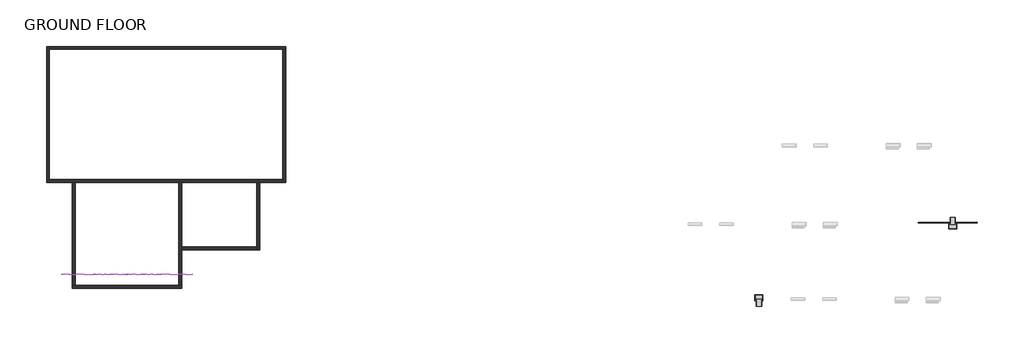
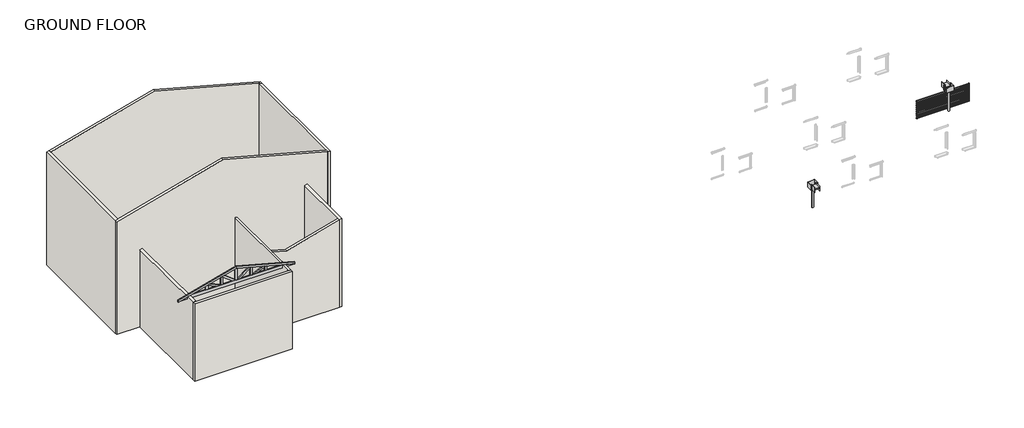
# One storey, part 1 of 2: 9 walls, 2 beams, 2 furniture elements.
"""IFC4 building model written with IfcOpenShell, lengths in millimetres."""

from ifc_helpers import new_model, si_unit, point, frame, frame_2d, origin, place, context, project, spatial, polyline, circle_curve, trimmed, segment, composite_curve, outline, extrude, faceted_brep, transform, mapped, element, save
from components import casework_2_casework_1_acfe7227, casework_3_casework_1_fadb44d8

model = new_model("IFC4")

# Units and contexts
model_context = context("Model", 3, world=origin())
ifc_project = project(units=[si_unit("LENGTHUNIT", "METRE", prefix="MILLI")], contexts=[model_context])

# Site, building, storey
site = spatial("IfcSite", under=ifc_project)
building = spatial("IfcBuilding", under=site)
storey = spatial("IfcBuildingStorey", under=building, Name="GROUND FLOOR", Elevation=0.0)

# Beams
placement = place(None, origin())
element("IfcBeam", 1, ObjectType="3D_Metalcraft T-Rib2 : 3D_Metalcraft T-Rib 2", at=placement, inside=storey, context=model_context, shape_type="SweptSolid", body=[
    extrude(outline(composite_curve([segment(polyline([(-23652.6775988, -1154.5488277), (-23650.9549813, -1150.4326775), (-23650.9549813, -1113.1404552), (-23652.6775988, -1109.024305), (-23652.6775988, -1066.7865663)]), True, "CONTINUOUS"), segment(trimmed(circle_curve(frame_2d((-23648.3388872, -1067.5668875)), 4.4083239), [point((-23652.6775988, -1066.7865663))], [point((-23650.8813088, -1063.9655805))], False, "CARTESIAN"), True, "CONTINUOUS"), segment(polyline([(-23650.8813088, -1063.9655805), (-23627.481988, -1048.4592407)]), True, "CONTINUOUS"), segment(trimmed(circle_curve(frame_2d((-23629.2734756, -1045.8936408)), 3.1291741), [point((-23627.481988, -1048.4592407))], [point((-23626.3050774, -1046.8837632))], True, "CARTESIAN"), True, "CONTINUOUS"), segment(trimmed(circle_curve(frame_2d((-23656.7771385, -1036.7924812)), 32.0995402), [point((-23626.3050774, -1046.8837632))], [point((-23624.6775989, -1036.7865663))], True, "CARTESIAN"), True, "CONTINUOUS"), segment(trimmed(circle_curve(frame_2d((-23656.7771385, -1036.7806515)), 32.0995402), [point((-23624.6775989, -1036.7865663))], [point((-23626.3050774, -1026.6893694))], True, "CARTESIAN"), True, "CONTINUOUS"), segment(trimmed(circle_curve(frame_2d((-23629.2734756, -1027.6794919)), 3.1291741), [point((-23626.3050774, -1026.6893694))], [point((-23627.481988, -1025.113892))], True, "CARTESIAN"), True, "CONTINUOUS"), segment(polyline([(-23627.481988, -1025.113892), (-23650.8813088, -1009.6075522)]), True, "CONTINUOUS"), segment(trimmed(circle_curve(frame_2d((-23648.3388872, -1006.0062451)), 4.4083239), [point((-23650.8813088, -1009.6075522))], [point((-23652.6775988, -1006.7865663))], False, "CARTESIAN"), True, "CONTINUOUS"), segment(polyline([(-23652.6775988, -1006.7865663), (-23652.6775988, -964.5488277), (-23650.9549813, -960.4326775), (-23650.9549813, -923.1404552), (-23652.6775988, -919.024305), (-23652.6775988, -876.7865663)]), True, "CONTINUOUS"), segment(trimmed(circle_curve(frame_2d((-23648.3388872, -877.5668875)), 4.4083239), [point((-23652.6775988, -876.7865663))], [point((-23650.8813088, -873.9655805))], False, "CARTESIAN"), True, "CONTINUOUS"), segment(polyline([(-23650.8813088, -873.9655805), (-23627.481988, -858.4592407)]), True, "CONTINUOUS"), segment(trimmed(circle_curve(frame_2d((-23629.2734756, -855.8936408)), 3.1291741), [point((-23627.481988, -858.4592407))], [point((-23626.3050774, -856.8837632))], True, "CARTESIAN"), True, "CONTINUOUS"), segment(trimmed(circle_curve(frame_2d((-23656.7771385, -846.7924812)), 32.0995402), [point((-23626.3050774, -856.8837632))], [point((-23624.6775989, -846.7865663))], True, "CARTESIAN"), True, "CONTINUOUS"), segment(trimmed(circle_curve(frame_2d((-23656.7771385, -846.7806514)), 32.0995402), [point((-23624.6775989, -846.7865663))], [point((-23626.3050774, -836.6893694))], True, "CARTESIAN"), True, "CONTINUOUS"), segment(trimmed(circle_curve(frame_2d((-23629.2734756, -837.6794919)), 3.1291741), [point((-23626.3050774, -836.6893694))], [point((-23627.481988, -835.113892))], True, "CARTESIAN"), True, "CONTINUOUS"), segment(polyline([(-23627.481988, -835.113892), (-23650.8813088, -819.6075522)]), True, "CONTINUOUS"), segment(trimmed(circle_curve(frame_2d((-23648.3388872, -816.0062451)), 4.4083239), [point((-23650.8813088, -819.6075522))], [point((-23652.6775988, -816.7865663))], False, "CARTESIAN"), True, "CONTINUOUS"), segment(polyline([(-23652.6775988, -816.7865663), (-23652.6775988, -774.5488277), (-23650.9549813, -770.4326774), (-23650.9549813, -733.1404552), (-23652.6775988, -729.024305), (-23652.6775988, -686.7865663)]), True, "CONTINUOUS"), segment(trimmed(circle_curve(frame_2d((-23648.3388872, -687.5668875)), 4.4083239), [point((-23652.6775988, -686.7865663))], [point((-23650.8813088, -683.9655805))], False, "CARTESIAN"), True, "CONTINUOUS"), segment(polyline([(-23650.8813088, -683.9655805), (-23627.481988, -668.4592407)]), True, "CONTINUOUS"), segment(trimmed(circle_curve(frame_2d((-23629.2734756, -665.8936408)), 3.1291741), [point((-23627.481988, -668.4592407))], [point((-23626.3050774, -666.8837632))], True, "CARTESIAN"), True, "CONTINUOUS"), segment(trimmed(circle_curve(frame_2d((-23656.7771385, -656.7924812)), 32.0995402), [point((-23626.3050774, -666.8837632))], [point((-23624.6775989, -656.7865663))], True, "CARTESIAN"), True, "CONTINUOUS"), segment(trimmed(circle_curve(frame_2d((-23656.7771385, -656.7806514)), 32.0995402), [point((-23624.6775989, -656.7865663))], [point((-23626.3050774, -646.6893694))], True, "CARTESIAN"), True, "CONTINUOUS"), segment(trimmed(circle_curve(frame_2d((-23629.2734756, -647.6794919)), 3.1291741), [point((-23626.3050774, -646.6893694))], [point((-23627.481988, -645.113892))], True, "CARTESIAN"), True, "CONTINUOUS"), segment(polyline([(-23627.481988, -645.113892), (-23650.8813088, -629.6075522)]), True, "CONTINUOUS"), segment(trimmed(circle_curve(frame_2d((-23648.3388872, -626.0062451)), 4.4083239), [point((-23650.8813088, -629.6075522))], [point((-23652.6775988, -626.7865663))], False, "CARTESIAN"), True, "CONTINUOUS"), segment(polyline([(-23652.6775988, -626.7865663), (-23652.6775988, -584.5488277), (-23650.9549813, -580.4326774), (-23650.9549813, -543.1404552), (-23652.6775988, -539.024305), (-23652.6775988, -496.7865663)]), True, "CONTINUOUS"), segment(trimmed(circle_curve(frame_2d((-23648.3388872, -497.5668875)), 4.4083239), [point((-23652.6775988, -496.7865663))], [point((-23650.8813088, -493.9655805))], False, "CARTESIAN"), True, "CONTINUOUS"), segment(polyline([(-23650.8813088, -493.9655805), (-23627.481988, -478.4592407)]), True, "CONTINUOUS"), segment(trimmed(circle_curve(frame_2d((-23629.2734756, -475.8936408)), 3.1291741), [point((-23627.481988, -478.4592407))], [point((-23626.3050774, -476.8837632))], True, "CARTESIAN"), True, "CONTINUOUS"), segment(trimmed(circle_curve(frame_2d((-23656.7771385, -466.7924812)), 32.0995402), [point((-23626.3050774, -476.8837632))], [point((-23624.6775989, -466.7865663))], True, "CARTESIAN"), True, "CONTINUOUS"), segment(trimmed(circle_curve(frame_2d((-23656.7771385, -466.7806514)), 32.0995402), [point((-23624.6775989, -466.7865663))], [point((-23626.3050774, -456.6893694))], True, "CARTESIAN"), True, "CONTINUOUS"), segment(trimmed(circle_curve(frame_2d((-23629.2734756, -457.6794919)), 3.1291741), [point((-23626.3050774, -456.6893694))], [point((-23627.481988, -455.113892))], True, "CARTESIAN"), True, "CONTINUOUS"), segment(polyline([(-23627.481988, -455.113892), (-23648.8813093, -440.9329184)]), True, "CONTINUOUS"), segment(trimmed(circle_curve(frame_2d((-23646.3388872, -437.3316118)), 4.4083239), [point((-23648.8813093, -440.9329184))], [point((-23650.6775988, -438.111933))], False, "CARTESIAN"), True, "CONTINUOUS"), segment(polyline([(-23650.6775988, -438.111933), (-23650.6775988, -434.4632978)]), True, "CONTINUOUS"), segment(trimmed(circle_curve(frame_2d((-23650.1775988, -434.4632978)), 0.5), [point((-23650.6775988, -434.4632978))], [point((-23649.6775988, -434.4632978))], False, "CARTESIAN"), True, "CONTINUOUS"), segment(polyline([(-23649.6775988, -434.4632978), (-23649.6775988, -438.0169414)]), True, "CONTINUOUS"), segment(trimmed(circle_curve(frame_2d((-23646.3388872, -437.3316118)), 3.4083239), [point((-23649.6775988, -438.0169414))], [point((-23648.3158314, -440.1080058))], True, "CARTESIAN"), True, "CONTINUOUS"), segment(polyline([(-23648.3158314, -440.1080058), (-23626.9201514, -454.2865663)]), True, "CONTINUOUS"), segment(trimmed(circle_curve(frame_2d((-23629.2734756, -457.6794919)), 4.1291741), [point((-23626.9201514, -454.2865663))], [point((-23625.3560958, -456.3740363))], False, "CARTESIAN"), True, "CONTINUOUS"), segment(trimmed(circle_curve(frame_2d((-23656.7771385, -466.7806514)), 33.0995402), [point((-23625.3560958, -456.3740363))], [point((-23623.6775988, -466.7865663))], False, "CARTESIAN"), True, "CONTINUOUS"), segment(trimmed(circle_curve(frame_2d((-23656.7771385, -466.7924812)), 33.0995402), [point((-23623.6775988, -466.7865663))], [point((-23625.3560958, -477.1990963))], False, "CARTESIAN"), True, "CONTINUOUS"), segment(trimmed(circle_curve(frame_2d((-23629.2734756, -475.8936408)), 4.1291741), [point((-23625.3560958, -477.1990963))], [point((-23626.9201514, -479.2865663))], False, "CARTESIAN"), True, "CONTINUOUS"), segment(polyline([(-23626.9201514, -479.2865663), (-23650.1253386, -494.6642571)]), True, "CONTINUOUS"), segment(trimmed(circle_curve(frame_2d((-23648.3388872, -497.5668875)), 3.4083239), [point((-23650.1253386, -494.6642571))], [point((-23651.6775988, -496.881558))], True, "CARTESIAN"), True, "CONTINUOUS"), segment(polyline([(-23651.6775988, -496.881558), (-23651.6775988, -538.8234921), (-23649.9549813, -542.9396424), (-23649.9549813, -580.6334903), (-23651.6775988, -584.7496405), (-23651.6775988, -626.6915747)]), True, "CONTINUOUS"), segment(trimmed(circle_curve(frame_2d((-23648.3388872, -626.0062451)), 3.4083239), [point((-23651.6775988, -626.6915747))], [point((-23650.1253386, -628.9088755))], True, "CARTESIAN"), True, "CONTINUOUS"), segment(polyline([(-23650.1253386, -628.9088755), (-23626.9201514, -644.2865663)]), True, "CONTINUOUS"), segment(trimmed(circle_curve(frame_2d((-23629.2734756, -647.6794919)), 4.1291741), [point((-23626.9201514, -644.2865663))], [point((-23625.3560958, -646.3740363))], False, "CARTESIAN"), True, "CONTINUOUS"), segment(trimmed(circle_curve(frame_2d((-23656.7771385, -656.7806514)), 33.0995402), [point((-23625.3560958, -646.3740363))], [point((-23623.6775988, -656.7865663))], False, "CARTESIAN"), True, "CONTINUOUS"), segment(trimmed(circle_curve(frame_2d((-23656.7771385, -656.7924812)), 33.0995402), [point((-23623.6775988, -656.7865663))], [point((-23625.3560958, -667.1990963))], False, "CARTESIAN"), True, "CONTINUOUS"), segment(trimmed(circle_curve(frame_2d((-23629.2734756, -665.8936408)), 4.1291741), [point((-23625.3560958, -667.1990963))], [point((-23626.9201514, -669.2865663))], False, "CARTESIAN"), True, "CONTINUOUS"), segment(polyline([(-23626.9201514, -669.2865663), (-23650.1253386, -684.6642571)]), True, "CONTINUOUS"), segment(trimmed(circle_curve(frame_2d((-23648.3388872, -687.5668875)), 3.4083239), [point((-23650.1253386, -684.6642571))], [point((-23651.6775988, -686.881558))], True, "CARTESIAN"), True, "CONTINUOUS"), segment(polyline([(-23651.6775988, -686.881558), (-23651.6775988, -728.8234921), (-23649.9549813, -732.9396424), (-23649.9549813, -770.6334903), (-23651.6775988, -774.7496405), (-23651.6775988, -816.6915747)]), True, "CONTINUOUS"), segment(trimmed(circle_curve(frame_2d((-23648.3388872, -816.0062451)), 3.4083239), [point((-23651.6775988, -816.6915747))], [point((-23650.1253386, -818.9088755))], True, "CARTESIAN"), True, "CONTINUOUS"), segment(polyline([(-23650.1253386, -818.9088755), (-23626.9201514, -834.2865663)]), True, "CONTINUOUS"), segment(trimmed(circle_curve(frame_2d((-23629.2734756, -837.6794919)), 4.1291741), [point((-23626.9201514, -834.2865663))], [point((-23625.3560958, -836.3740363))], False, "CARTESIAN"), True, "CONTINUOUS"), segment(trimmed(circle_curve(frame_2d((-23656.7771385, -846.7806514)), 33.0995402), [point((-23625.3560958, -836.3740363))], [point((-23623.6775988, -846.7865663))], False, "CARTESIAN"), True, "CONTINUOUS"), segment(trimmed(circle_curve(frame_2d((-23656.7771385, -846.7924812)), 33.0995402), [point((-23623.6775988, -846.7865663))], [point((-23625.3560958, -857.1990963))], False, "CARTESIAN"), True, "CONTINUOUS"), segment(trimmed(circle_curve(frame_2d((-23629.2734756, -855.8936408)), 4.1291741), [point((-23625.3560958, -857.1990963))], [point((-23626.9201514, -859.2865663))], False, "CARTESIAN"), True, "CONTINUOUS"), segment(polyline([(-23626.9201514, -859.2865663), (-23650.1253386, -874.6642571)]), True, "CONTINUOUS"), segment(trimmed(circle_curve(frame_2d((-23648.3388872, -877.5668875)), 3.4083239), [point((-23650.1253386, -874.6642571))], [point((-23651.6775988, -876.881558))], True, "CARTESIAN"), True, "CONTINUOUS"), segment(polyline([(-23651.6775988, -876.881558), (-23651.6775988, -918.8234921), (-23649.9549813, -922.9396424), (-23649.9549813, -960.6334903), (-23651.6775988, -964.7496405), (-23651.6775988, -1006.6915747)]), True, "CONTINUOUS"), segment(trimmed(circle_curve(frame_2d((-23648.3388872, -1006.0062451)), 3.4083239), [point((-23651.6775988, -1006.6915747))], [point((-23650.1253386, -1008.9088756))], True, "CARTESIAN"), True, "CONTINUOUS"), segment(polyline([(-23650.1253386, -1008.9088756), (-23626.9201514, -1024.2865663)]), True, "CONTINUOUS"), segment(trimmed(circle_curve(frame_2d((-23629.2734756, -1027.6794919)), 4.1291741), [point((-23626.9201514, -1024.2865663))], [point((-23625.3560958, -1026.3740363))], False, "CARTESIAN"), True, "CONTINUOUS"), segment(trimmed(circle_curve(frame_2d((-23656.7771385, -1036.7806515)), 33.0995402), [point((-23625.3560958, -1026.3740363))], [point((-23623.6775988, -1036.7865663))], False, "CARTESIAN"), True, "CONTINUOUS"), segment(trimmed(circle_curve(frame_2d((-23656.7771385, -1036.7924812)), 33.0995402), [point((-23623.6775988, -1036.7865663))], [point((-23625.3560958, -1047.1990963))], False, "CARTESIAN"), True, "CONTINUOUS"), segment(trimmed(circle_curve(frame_2d((-23629.2734756, -1045.8936408)), 4.1291741), [point((-23625.3560958, -1047.1990963))], [point((-23626.9201514, -1049.2865663))], False, "CARTESIAN"), True, "CONTINUOUS"), segment(polyline([(-23626.9201514, -1049.2865663), (-23650.1253386, -1064.6642571)]), True, "CONTINUOUS"), segment(trimmed(circle_curve(frame_2d((-23648.3388872, -1067.5668875)), 3.4083239), [point((-23650.1253386, -1064.6642571))], [point((-23651.6775988, -1066.881558))], True, "CARTESIAN"), True, "CONTINUOUS"), segment(polyline([(-23651.6775988, -1066.881558), (-23651.6775988, -1108.8234921), (-23649.9549813, -1112.9396424), (-23649.9549813, -1150.6334903), (-23651.6775988, -1154.7496405), (-23651.6775988, -1199.0908656)]), True, "CONTINUOUS"), segment(trimmed(circle_curve(frame_2d((-23648.3388872, -1198.405536)), 3.4083239), [point((-23651.6775988, -1199.0908656))], [point((-23650.3158309, -1201.1819304))], True, "CARTESIAN"), True, "CONTINUOUS"), segment(polyline([(-23650.3158309, -1201.1819304), (-23628.0343874, -1215.9474716)]), True, "CONTINUOUS"), segment(trimmed(circle_curve(frame_2d((-23629.0935366, -1217.5457452)), 1.9173616), [point((-23628.0343874, -1215.9474716))], [point((-23627.2543764, -1217.0037441))], False, "CARTESIAN"), True, "CONTINUOUS"), segment(trimmed(circle_curve(frame_2d((-23656.7771385, -1226.7806515)), 31.0995402), [point((-23627.2543764, -1217.0037441))], [point((-23625.6775989, -1226.7865663))], False, "CARTESIAN"), True, "CONTINUOUS"), segment(trimmed(circle_curve(frame_2d((-23656.7771385, -1226.7924812)), 31.0995402), [point((-23625.6775989, -1226.7865663))], [point((-23627.2543764, -1236.5693886))], False, "CARTESIAN"), True, "CONTINUOUS"), segment(trimmed(circle_curve(frame_2d((-23629.0935366, -1236.0273875)), 1.9173616), [point((-23627.2543764, -1236.5693886))], [point((-23628.0343874, -1237.625661))], False, "CARTESIAN"), True, "CONTINUOUS"), segment(polyline([(-23628.0343874, -1237.625661), (-23649.6819956, -1251.9711702)]), True, "CONTINUOUS"), segment(trimmed(circle_curve(frame_2d((-23649.9581953, -1251.5543804)), 0.5), [point((-23649.6819956, -1251.9711702))], [point((-23650.234395, -1251.1375906))], False, "CARTESIAN"), True, "CONTINUOUS"), segment(polyline([(-23650.234395, -1251.1375906), (-23628.8402143, -1236.9600237)]), True, "CONTINUOUS"), segment(trimmed(circle_curve(frame_2d((-23629.8422213, -1235.4479788)), 1.8139178), [point((-23628.8402143, -1236.9600237))], [point((-23628.0752713, -1235.8580833))], True, "CARTESIAN"), True, "CONTINUOUS"), segment(trimmed(circle_curve(frame_2d((-23656.7771385, -1226.7924812)), 30.0995402), [point((-23628.0752713, -1235.8580833))], [point((-23626.6775989, -1226.7865663))], True, "CARTESIAN"), True, "CONTINUOUS"), segment(trimmed(circle_curve(frame_2d((-23656.7771385, -1226.7806515)), 30.0995402), [point((-23626.6775989, -1226.7865663))], [point((-23628.0752713, -1217.7150494))], True, "CARTESIAN"), True, "CONTINUOUS"), segment(trimmed(circle_curve(frame_2d((-23629.8422213, -1218.1251539)), 1.8139178), [point((-23628.0752713, -1217.7150494))], [point((-23628.8402143, -1216.613109))], True, "CARTESIAN"), True, "CONTINUOUS"), segment(polyline([(-23628.8402143, -1216.613109), (-23650.8813088, -1202.0068431)]), True, "CONTINUOUS"), segment(trimmed(circle_curve(frame_2d((-23648.3388872, -1198.405536)), 4.4083239), [point((-23650.8813088, -1202.0068431))], [point((-23652.6775988, -1199.1858572))], False, "CARTESIAN"), True, "CONTINUOUS"), segment(polyline([(-23652.6775988, -1199.1858572), (-23652.6775988, -1154.5488277)]), True, "CONTINUOUS")], self_intersect=False)), frame((16710.9840644, 0.0, 0.0), z_axis=(1.0, 0.0, 0.0), x_axis=(0.0, 1.0, 0.0)), (0.0, 0.0, 1.0), 2280.0),
])
element("IfcBeam", 2, ObjectType="King_post_truss_-_6_panel_-_beam_element_6323 : 8000 25d 900oh", at=placement, inside=storey, context=model_context, shape_type="SweptSolid", body=[
    extrude(outline(polyline([(3883.7034656, -13773.1375384), (3211.2581723, -16282.7375384), (3118.0833161, -16282.7375384), (3790.5286094, -13773.1375384), (3883.7034656, -13773.1375384)])), frame((0.0, -25641.1704124, 0.0), z_axis=(0.0, 1.0, 0.0), x_axis=(0.0, 0.0, 1.0)), (0.0, 0.0, 1.0), 38.1),
    extrude(outline(polyline([(3883.7034656, -13773.1375384), (3790.5286094, -13773.1375384), (3118.0833161, -11263.5375384), (3211.2581723, -11263.5375384), (3883.7034656, -13773.1375384)])), frame((0.0, -25641.1704124, 0.0), z_axis=(0.0, 1.0, 0.0), x_axis=(0.0, 0.0, 1.0)), (0.0, 0.0, 1.0), 38.1),
    extrude(outline(polyline([(3120.6, -16273.3451461), (3120.6, -11272.9299307), (3260.3, -11794.2974286), (3260.3, -15751.9776482), (3120.6, -16273.3451461)])), frame((0.0, -25641.1704124, 0.0), z_axis=(0.0, 1.0, 0.0), x_axis=(0.0, 0.0, 1.0)), (0.0, 0.0, 1.0), 38.1),
    extrude(outline(polyline([(3450.123823, -15043.5454965), (3260.3, -14652.2798054), (3260.3, -14448.6121869), (3485.2798126, -14912.3415571), (3450.123823, -15043.5454965)])), frame((0.0, -25641.1704124, 0.0), z_axis=(0.0, 1.0, 0.0), x_axis=(0.0, 0.0, 1.0)), (0.0, 0.0, 1.0), 38.1),
    extrude(outline(polyline([(3439.2159574, -15084.2542051), (3260.3, -15084.2542051), (3260.3, -14995.3542051), (3463.0366406, -14995.3542051), (3439.2159574, -15084.2542051)])), frame((0.0, -25641.1704124, 0.0), z_axis=(0.0, 1.0, 0.0), x_axis=(0.0, 0.0, 1.0)), (0.0, 0.0, 1.0), 38.1),
    extrude(outline(polyline([(3618.4504311, -14415.3420425), (3260.3, -13939.7753608), (3260.3, -13791.9990472), (3647.655863, -14306.345887), (3618.4504311, -14415.3420425)])), frame((0.0, -25641.1704124, 0.0), z_axis=(0.0, 1.0, 0.0), x_axis=(0.0, 0.0, 1.0)), (0.0, 0.0, 1.0), 38.1),
    extrude(outline(polyline([(3608.9171126, -14450.9208717), (3260.3, -14450.9208717), (3260.3, -14362.0208717), (3632.7377958, -14362.0208717), (3608.9171126, -14450.9208717)])), frame((0.0, -25641.1704124, 0.0), z_axis=(0.0, 1.0, 0.0), x_axis=(0.0, 0.0, 1.0)), (0.0, 0.0, 1.0), 38.1),
    extrude(outline(polyline([(3778.6182678, -13817.5875384), (3260.3, -13817.5875384), (3260.3, -13728.6875384), (3778.6182678, -13728.6875384), (3790.5286094, -13773.1375384), (3778.6182678, -13817.5875384)])), frame((0.0, -25641.1704124, 0.0), z_axis=(0.0, 1.0, 0.0), x_axis=(0.0, 0.0, 1.0)), (0.0, 0.0, 1.0), 38.1),
    extrude(outline(polyline([(3632.7377958, -13184.2542051), (3260.3, -13184.2542051), (3260.3, -13095.3542051), (3608.9171126, -13095.3542051), (3632.7377958, -13184.2542051)])), frame((0.0, -25641.1704124, 0.0), z_axis=(0.0, 1.0, 0.0), x_axis=(0.0, 0.0, 1.0)), (0.0, 0.0, 1.0), 38.1),
    extrude(outline(polyline([(3463.0366406, -12550.9208717), (3260.3, -12550.9208717), (3260.3, -12462.0208717), (3439.2159574, -12462.0208717), (3463.0366406, -12550.9208717)])), frame((0.0, -25641.1704124, 0.0), z_axis=(0.0, 1.0, 0.0), x_axis=(0.0, 0.0, 1.0)), (0.0, 0.0, 1.0), 38.1),
    extrude(outline(polyline([(3647.655863, -13239.9291898), (3260.3, -13754.2760296), (3260.3, -13606.499716), (3618.4504311, -13130.9330343), (3647.655863, -13239.9291898)])), frame((0.0, -25641.1704124, 0.0), z_axis=(0.0, 1.0, 0.0), x_axis=(0.0, 0.0, 1.0)), (0.0, 0.0, 1.0), 38.1),
    extrude(outline(polyline([(3485.2798126, -12633.9335197), (3260.3, -13097.6628899), (3260.3, -12893.9952715), (3450.123823, -12502.7295803), (3485.2798126, -12633.9335197)])), frame((0.0, -25641.1704124, 0.0), z_axis=(0.0, 1.0, 0.0), x_axis=(0.0, 0.0, 1.0)), (0.0, 0.0, 1.0), 38.1),
])

# Furniture
casework_2_casework_1_shape = casework_2_casework_1_acfe7227(model_context)
element("IfcFurniture", 3, ObjectType="Casework 2 : Casework 1", at=placement, inside=storey, context=model_context, shape_type="MappedRepresentation", body=[
    mapped(casework_2_casework_1_shape, transform((-14.3265478, 2.6731518, -3080.0), x_axis=(1.0, 0.0, 0.0), y_axis=(0.0, 1.0, 0.0), z_axis=(0.0, 0.0, 1.0))),
])
casework_3_casework_1_shape = casework_3_casework_1_fadb44d8(model_context)
element("IfcFurniture", 4, ObjectType="Casework 3 : Casework 1", at=placement, inside=storey, context=model_context, shape_type="MappedRepresentation", body=[
    mapped(casework_3_casework_1_shape, transform((-15.6553348, 15.8139083, -2680.0), x_axis=(1.0, 0.0, 0.0), y_axis=(0.0, 1.0, 0.0), z_axis=(0.0, 0.0, 1.0))),
])

# Walls
element("IfcWall", 5, ObjectType="Generic 90 Frame", at=placement, inside=storey, context=model_context, shape_type="Brep", body=[
    faceted_brep([(-15878.1375384, -26164.3187598, -312.0), (-11668.1375384, -26164.3187598, -312.0), (-11668.1375384, -26164.3187598, 3221.3404021), (-15878.1375384, -26164.3187598, 3221.3404021), (-15878.1375384, -26054.3187598, -312.0), (-15878.1375384, -26054.3187598, 3212.2791064), (-15878.1375384, -26054.3187598, 3221.3404021), (-11668.1375384, -26054.3187598, 3221.3404021), (-11668.1375384, -26054.3187598, 3217.6380902), (-11668.1375384, -26054.3187598, -312.0), (-11778.1375384, -26054.3187598, -312.0), (-15768.1375384, -26054.3187598, -312.0)], [[[0, 1, 2, 3]], [[4, 5, 6, 7, 8, 9, 10, 11]], [[1, 0, 4, 11, 10, 9]], [[3, 2, 7, 6]], [[0, 3, 6, 5, 4]], [[2, 1, 9, 8, 7]]]),
])
element("IfcWall", 6, ObjectType="Generic 90 Frame", at=placement, inside=storey, context=model_context, shape_type="Brep", body=[
    faceted_brep([(-11668.1375384, -26054.3187598, -312.0), (-11668.1375384, -24686.1704124, -312.0), (-11668.1375384, -24576.1704124, -312.0), (-11668.1375384, -22076.1704124, -312.0), (-11668.1375384, -22076.1704124, 3217.6380902), (-11668.1375384, -24576.1704124, 3217.6380902), (-11668.1375384, -24686.1704124, 3217.6380902), (-11668.1375384, -26054.3187598, 3217.6380902), (-11778.1375384, -26054.3187598, -312.0), (-11778.1375384, -26054.3187598, 3100.0), (-11778.1375384, -26034.3187598, 3100.0), (-11778.1375384, -26034.3187598, 3247.1125014), (-11778.1375384, -22076.1704124, 3247.1125014), (-11778.1375384, -22076.1704124, -312.0), (-11758.1375384, -26054.3187598, 3241.7535175), (-11758.1375384, -26054.3187598, 3100.0)], [[[0, 1, 2, 3, 4, 5, 6, 7]], [[8, 9, 10, 11, 12, 13]], [[0, 7, 14, 15, 9, 8]], [[7, 6, 5, 4, 12, 11, 14]], [[4, 3, 13, 12]], [[3, 2, 1, 0, 8, 13]], [[10, 9, 15]], [[10, 15, 14, 11]]]),
])
element("IfcWall", 7, ObjectType="Generic 90 Frame", at=placement, inside=storey, context=model_context, shape_type="Brep", body=[
    faceted_brep([(-7668.1375384, -22076.1704124, -312.0), (-7668.1375384, -16946.1704124, -312.0), (-7668.1375384, -16946.1704124, 4838.3905535), (-7668.1375384, -22076.1704124, 4838.3905535), (-7778.1375384, -22076.1704124, -312.0), (-7778.1375384, -22076.1704124, 4867.8649647), (-7778.1375384, -21966.1704124, 4867.8649647), (-7778.1375384, -16946.1704124, 4867.8649647), (-7778.1375384, -16946.1704124, -312.0), (-7778.1375384, -21966.1704124, -312.0)], [[[0, 1, 2, 3]], [[4, 5, 6, 7, 8, 9]], [[1, 0, 4, 9, 8]], [[0, 3, 5, 4]], [[2, 1, 8, 7]], [[3, 2, 7, 6, 5]]]),
])
element("IfcWall", 8, ObjectType="Generic 90 Frame", at=placement, inside=storey, context=model_context, shape_type="Brep", body=[
    faceted_brep([(-16878.1375384, -22076.1704124, -312.0), (-15878.1375384, -22076.1704124, -312.0), (-15768.1375384, -22076.1704124, -312.0), (-11778.1375384, -22076.1704124, -312.0), (-11668.1375384, -22076.1704124, -312.0), (-8778.1375384, -22076.1704124, -312.0), (-8668.1375384, -22076.1704124, -312.0), (-7778.1375384, -22076.1704124, -312.0), (-7778.1375384, -22076.1704124, 4867.8649647), (-12273.1375384, -22076.1704124, 6072.2965847), (-16878.1375384, -22076.1704124, 4838.3905535), (-16878.1375384, -21966.1704124, -312.0), (-16878.1375384, -21966.1704124, 4838.3905535), (-16768.1375384, -21966.1704124, 4867.8649647), (-12273.1375384, -21966.1704124, 6072.2965847), (-7778.1375384, -21966.1704124, 4867.8649647), (-7778.1375384, -21966.1704124, -312.0), (-16768.1375384, -21966.1704124, -312.0)], [[[0, 1, 2, 3, 4, 5, 6, 7, 8, 9, 10]], [[11, 12, 13, 14, 15, 16, 17]], [[7, 6, 5, 4, 3, 2, 1, 0, 11, 17, 16]], [[8, 7, 16, 15]], [[0, 10, 12, 11]], [[9, 8, 15, 14]], [[10, 9, 14, 13, 12]]]),
])
element("IfcWall", 9, ObjectType="Generic 90 Frame", at=placement, inside=storey, context=model_context, shape_type="Brep", body=[
    faceted_brep([(-16768.1375384, -21966.1704124, -312.0), (-16768.1375384, -16946.1704124, -312.0), (-16768.1375384, -16836.1704124, -312.0), (-16768.1375384, -16836.1704124, 4867.8649647), (-16768.1375384, -16946.1704124, 4867.8649647), (-16768.1375384, -21966.1704124, 4867.8649647), (-16878.1375384, -21966.1704124, -312.0), (-16878.1375384, -21966.1704124, 4838.3905535), (-16878.1375384, -16836.1704124, 4838.3905535), (-16878.1375384, -16836.1704124, -312.0)], [[[0, 1, 2, 3, 4, 5]], [[6, 7, 8, 9]], [[2, 1, 0, 6, 9]], [[3, 2, 9, 8]], [[0, 5, 7, 6]], [[5, 4, 3, 8, 7]]]),
])
element("IfcWall", 10, ObjectType="Generic 90 Frame", at=placement, inside=storey, context=model_context, shape_type="Brep", body=[
    faceted_brep([(-16768.1375384, -16946.1704124, -312.0), (-7778.1375384, -16946.1704124, -312.0), (-7668.1375384, -16946.1704124, -312.0), (-7668.1375384, -16946.1704124, 4838.3905535), (-7778.1375384, -16946.1704124, 4867.8649647), (-12273.1375384, -16946.1704124, 6072.2965847), (-16768.1375384, -16946.1704124, 4867.8649647), (-16768.1375384, -16836.1704124, -312.0), (-16768.1375384, -16836.1704124, 4867.8649647), (-12273.1375384, -16836.1704124, 6072.2965847), (-7668.1375384, -16836.1704124, 4838.3905535), (-7668.1375384, -16836.1704124, -312.0)], [[[0, 1, 2, 3, 4, 5, 6]], [[7, 8, 9, 10, 11]], [[2, 1, 0, 7, 11]], [[0, 6, 8, 7]], [[3, 2, 11, 10]], [[5, 4, 3, 10, 9]], [[6, 5, 9, 8]]]),
])
element("IfcWall", 11, ObjectType="Generic 90 Frame", at=placement, inside=storey, context=model_context, shape_type="SweptSolid", body=[
    extrude(outline(polyline([(3212.2791064, -15878.1375384), (-312.0, -15878.1375384), (-312.0, -15768.1375384), (3241.7535175, -15768.1375384), (3212.2791064, -15878.1375384)])), frame((0.0, -26054.3187598, 0.0), z_axis=(0.0, 1.0, 0.0), x_axis=(0.0, 0.0, 1.0)), (0.0, 0.0, 1.0), 3978.1483474),
])
element("IfcWall", 12, ObjectType="Generic 90 Frame", at=placement, inside=storey, context=model_context, shape_type="Brep", body=[
    faceted_brep([(-8668.1375384, -24686.1704124, -312.0), (-8668.1375384, -22076.1704124, -312.0), (-8668.1375384, -22076.1704124, 3689.2286689), (-8668.1375384, -24686.1704124, 3689.2286689), (-8778.1375384, -24686.1704124, -312.0), (-8778.1375384, -24686.1704124, 3659.7542577), (-8778.1375384, -24576.1704124, 3659.7542577), (-8778.1375384, -22076.1704124, 3659.7542577), (-8778.1375384, -22076.1704124, -312.0), (-8778.1375384, -24576.1704124, -312.0)], [[[0, 1, 2, 3]], [[4, 5, 6, 7, 8, 9]], [[1, 0, 4, 9, 8]], [[2, 1, 8, 7]], [[0, 3, 5, 4]], [[3, 2, 7, 6, 5]]]),
])
element("IfcWall", 13, ObjectType="Generic 90 Frame", at=placement, inside=storey, context=model_context, shape_type="SweptSolid", body=[
    extrude(outline(polyline([(-312.0, -11668.1375384), (-312.0, -8778.1375384), (3659.7542577, -8778.1375384), (3051.5095909, -11048.1375384), (3217.6380902, -11668.1375384), (-312.0, -11668.1375384)])), frame((0.0, -24686.1704124, 0.0), z_axis=(0.0, 1.0, 0.0), x_axis=(0.0, 0.0, 1.0)), (0.0, 0.0, 1.0), 110.0),
])

save(model, "model.ifc")
